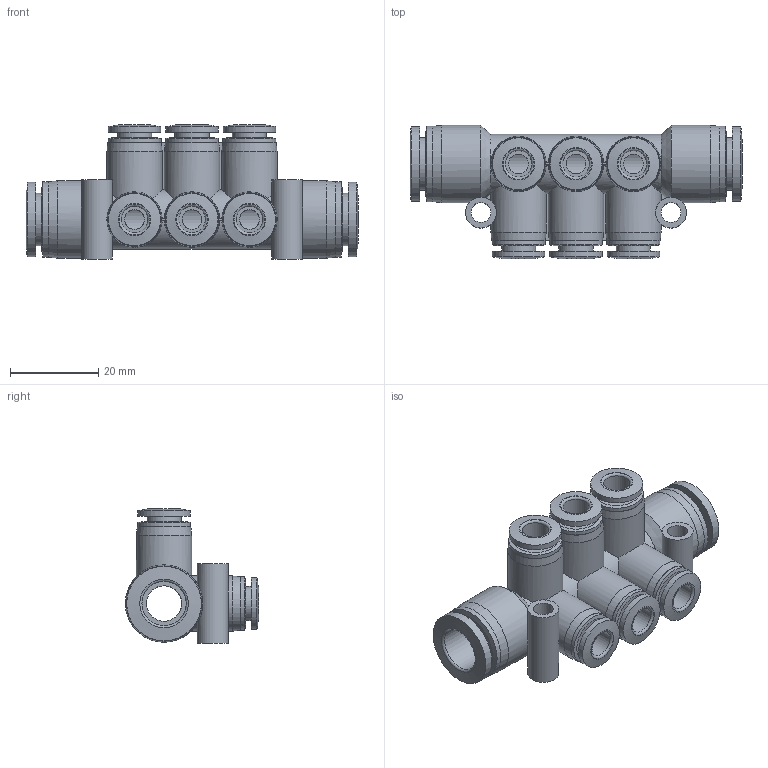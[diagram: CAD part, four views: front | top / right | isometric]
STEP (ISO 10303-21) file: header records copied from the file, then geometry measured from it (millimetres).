
FILE_DESCRIPTION(/* description */ (''),/* implementation_level */ '2;1');
FILE_NAME(/* name */ 'D:\김태욱\PMG\PMG 1006.stp',/* time_stamp */ '2019-09-09T14:40:44+09:00',/* author */ ('DIAMOND'),/* organization */ (''),/* preprocessor_version */ 'ST-DEVELOPER v15.6',/* originating_system */ 'Autodesk Inventor 2015',/* authorisation */ '');
FILE_SCHEMA (('AUTOMOTIVE_DESIGN { 1 0 10303 214 3 1 1 }'));
Length unit declared in the file: millimetre
Products named in the file (1): PMG 1006
Bounding box: 75.1 x 30.15 x 30.35 mm (x, y, z)
Volume: 17401.8 mm3; surface area: 13390.2 mm2
Topology: 1 solids, 1 shells, 142 faces, 311 edges, 199 vertices
Faces by surface type: cylinder 58, plane 48, cone 28, torus 8
Full cylindrical faces by diameter (mm): 4.5 x8, 6 x6, 7 x2, 7.7 x6, 8 x1, 10 x2, 11.8 x8, 12 x6, 16.9 x2, 17 x2, 17.5 x2
Entity records: 4030 total; most frequent: CARTESIAN_POINT 1169, DIRECTION 608, ORIENTED_EDGE 452, AXIS2_PLACEMENT_3D 276, EDGE_LOOP 261, EDGE_CURVE 226, VERTEX_POINT 187, FACE_OUTER_BOUND 142
